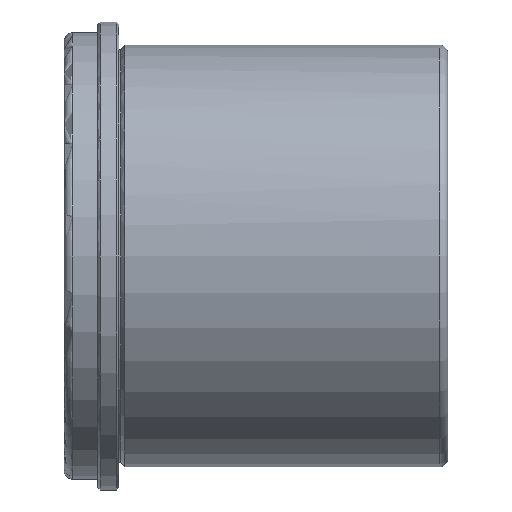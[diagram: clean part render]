
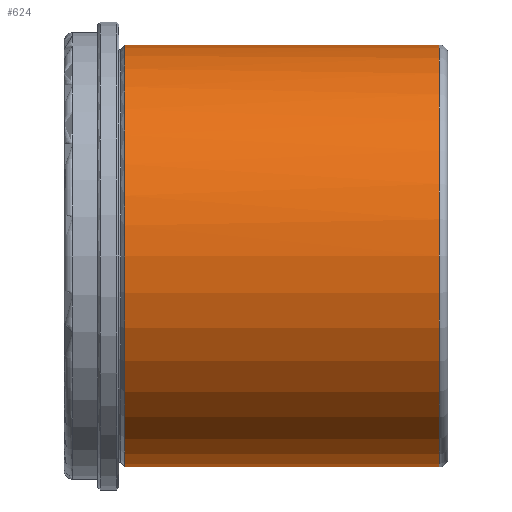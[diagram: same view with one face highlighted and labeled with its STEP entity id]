
A CAD part, front view. The second image highlights one B-rep face of the part: STEP entity #624.
In plain terms, the highlighted cylindrical face has radius 50 mm (diameter 100 mm), a partial arc.
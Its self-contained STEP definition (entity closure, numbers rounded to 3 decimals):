
#398=CARTESIAN_POINT('Line Origine',(78.,0.,50.)) ;
#402=CARTESIAN_POINT('Vertex',(76.,0.,50.)) ;
#404=CARTESIAN_POINT('Vertex',(1.414,0.,50.)) ;
#418=CARTESIAN_POINT('Vertex',(76.,0.,-50.)) ;
#421=CARTESIAN_POINT('Line Origine',(78.,0.,-50.)) ;
#425=CARTESIAN_POINT('Vertex',(1.414,0.,-50.)) ;
#581=CARTESIAN_POINT('Axis2P3D Location',(78.,0.,0.)) ;
#586=CARTESIAN_POINT('Axis2P3D Location',(76.,0.,0.)) ;
#590=CARTESIAN_POINT('Vertex',(76.,-50.,0.)) ;
#593=CARTESIAN_POINT('Axis2P3D Location',(76.,0.,0.)) ;
#599=CARTESIAN_POINT('Control Point',(1.414,0.,50.)) ;
#600=CARTESIAN_POINT('Control Point',(1.414,-7.854,50.)) ;
#601=CARTESIAN_POINT('Control Point',(1.414,-15.708,48.458)) ;
#602=CARTESIAN_POINT('Control Point',(1.414,-23.158,45.372)) ;
#603=CARTESIAN_POINT('Control Point',(1.414,-36.446,36.446)) ;
#604=CARTESIAN_POINT('Control Point',(1.414,-45.372,23.158)) ;
#605=CARTESIAN_POINT('Control Point',(1.414,-48.458,15.708)) ;
#606=CARTESIAN_POINT('Control Point',(1.414,-50.,7.854)) ;
#607=CARTESIAN_POINT('Control Point',(1.414,-50.,0.)) ;
#608=CARTESIAN_POINT('Vertex',(1.414,-50.,0.)) ;
#611=CARTESIAN_POINT('Axis2P3D Location',(1.414,0.,0.)) ;
#399=DIRECTION('Vector Direction',(-1.,0.,0.)) ;
#422=DIRECTION('Vector Direction',(-1.,0.,0.)) ;
#582=DIRECTION('Axis2P3D Direction',(-1.,-0.,-0.)) ;
#583=DIRECTION('Axis2P3D XDirection',(0.,0.,-1.)) ;
#587=DIRECTION('Axis2P3D Direction',(-1.,-0.,-0.)) ;
#594=DIRECTION('Axis2P3D Direction',(-1.,-0.,-0.)) ;
#612=DIRECTION('Axis2P3D Direction',(-1.,-0.,-0.)) ;
#584=AXIS2_PLACEMENT_3D('Cylinder Axis2P3D',#581,#582,#583) ;
#588=AXIS2_PLACEMENT_3D('Circle Axis2P3D',#586,#587,$) ;
#595=AXIS2_PLACEMENT_3D('Circle Axis2P3D',#593,#594,$) ;
#613=AXIS2_PLACEMENT_3D('Circle Axis2P3D',#611,#612,$) ;
#617=ORIENTED_EDGE('',*,*,#427,.T.) ;
#618=ORIENTED_EDGE('',*,*,#592,.F.) ;
#619=ORIENTED_EDGE('',*,*,#597,.F.) ;
#620=ORIENTED_EDGE('',*,*,#406,.T.) ;
#621=ORIENTED_EDGE('',*,*,#610,.T.) ;
#622=ORIENTED_EDGE('',*,*,#615,.T.) ;
#400=VECTOR('Line Direction',#399,1.) ;
#423=VECTOR('Line Direction',#422,1.) ;
#624=ADVANCED_FACE('CF 631 80 x 91',(#623),#585,.T.) ;
#598=B_SPLINE_CURVE_WITH_KNOTS('',5,(#599,#600,#601,#602,#603,#604,#605,#606,#607),.UNSPECIFIED.,.F.,.U.,(6,3,6),(-39.27,0.,39.27),.UNSPECIFIED.) ;
#589=CIRCLE('generated circle',#588,50.) ;
#596=CIRCLE('generated circle',#595,50.) ;
#614=CIRCLE('generated circle',#613,50.) ;
#585=CYLINDRICAL_SURFACE('generated cylinder',#584,50.) ;
#406=EDGE_CURVE('',#403,#405,#401,.T.) ;
#427=EDGE_CURVE('',#426,#419,#424,.F.) ;
#592=EDGE_CURVE('',#591,#419,#589,.F.) ;
#597=EDGE_CURVE('',#403,#591,#596,.F.) ;
#610=EDGE_CURVE('',#405,#609,#598,.T.) ;
#615=EDGE_CURVE('',#609,#426,#614,.F.) ;
#616=EDGE_LOOP('',(#617,#618,#619,#620,#621,#622)) ;
#623=FACE_OUTER_BOUND('',#616,.T.) ;
#401=LINE('Line',#398,#400) ;
#424=LINE('Line',#421,#423) ;
#403=VERTEX_POINT('',#402) ;
#405=VERTEX_POINT('',#404) ;
#419=VERTEX_POINT('',#418) ;
#426=VERTEX_POINT('',#425) ;
#591=VERTEX_POINT('',#590) ;
#609=VERTEX_POINT('',#608) ;
